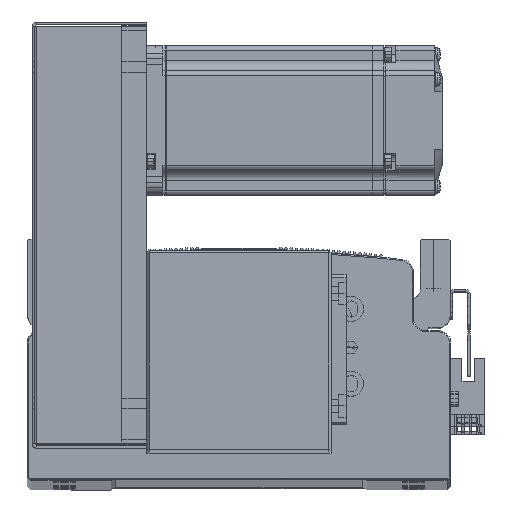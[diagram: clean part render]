
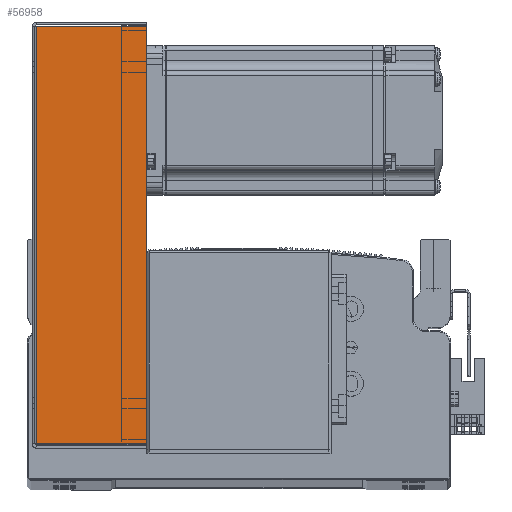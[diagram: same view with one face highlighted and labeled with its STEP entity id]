
A CAD part, top view. The second image highlights one B-rep face of the part: STEP entity #56958.
In plain terms, the highlighted planar face has unit normal (0, 0, 1) as drawn and (0, 0, -1) by its records, which use the part's own axes.
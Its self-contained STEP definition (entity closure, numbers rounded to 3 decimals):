
#10767 = FACE_OUTER_BOUND ( 'NONE', #35043, .T. ) ;
#12455 = PLANE ( 'NONE',  #89563 ) ;
#12472 = CARTESIAN_POINT ( 'NONE',  ( 0., 0., -40.5 ) ) ;
#12494 = DIRECTION ( 'NONE',  ( 0., 0., 1. ) ) ;
#12506 = DIRECTION ( 'NONE',  ( 0., -1., 0. ) ) ;
#18440 = LINE ( 'NONE', #72772, #18442 ) ;
#18442 = VECTOR ( 'NONE', #72799, 1000. ) ;
#18461 = LINE ( 'NONE', #72762, #18480 ) ;
#18480 = VECTOR ( 'NONE', #72797, 1000. ) ;
#18485 = LINE ( 'NONE', #72828, #18549 ) ;
#18549 = VECTOR ( 'NONE', #72812, 1000. ) ;
#18575 = LINE ( 'NONE', #72984, #18616 ) ;
#18616 = VECTOR ( 'NONE', #72957, 1000. ) ;
#28705 = ORIENTED_EDGE ( 'NONE', *, *, #35417, .T. ) ;
#28724 = ORIENTED_EDGE ( 'NONE', *, *, #35378, .T. ) ;
#28728 = ORIENTED_EDGE ( 'NONE', *, *, #35384, .F. ) ;
#28803 = ORIENTED_EDGE ( 'NONE', *, *, #35536, .F. ) ;
#35043 = EDGE_LOOP ( 'NONE', ( #28803, #28705, #28724, #28728 ) ) ;
#35378 = EDGE_CURVE ( 'NONE', #74404, #74378, #18440, .T. ) ;
#35384 = EDGE_CURVE ( 'NONE', #74440, #74378, #18461, .T. ) ;
#35417 = EDGE_CURVE ( 'NONE', #74415, #74404, #18485, .T. ) ;
#35536 = EDGE_CURVE ( 'NONE', #74415, #74440, #18575, .T. ) ;
#44804 = CARTESIAN_POINT ( 'NONE',  ( -83.793, 45., -40.5 ) ) ;
#44808 = CARTESIAN_POINT ( 'NONE',  ( -83.793, 0.737, -40.5 ) ) ;
#44847 = CARTESIAN_POINT ( 'NONE',  ( 83.793, 45., -40.5 ) ) ;
#44884 = CARTESIAN_POINT ( 'NONE',  ( 83.793, 0.737, -40.5 ) ) ;
#56958 = ADVANCED_FACE ( 'NONE', ( #10767 ), #12455, .F. ) ;
#72762 = CARTESIAN_POINT ( 'NONE',  ( 83.793, 0., -40.5 ) ) ;
#72772 = CARTESIAN_POINT ( 'NONE',  ( 84.5, 45., -40.5 ) ) ;
#72797 = DIRECTION ( 'NONE',  ( 0., 1., 0. ) ) ;
#72799 = DIRECTION ( 'NONE',  ( 1., 0., 0. ) ) ;
#72812 = DIRECTION ( 'NONE',  ( 0., 1., 0. ) ) ;
#72828 = CARTESIAN_POINT ( 'NONE',  ( -83.793, 0., -40.5 ) ) ;
#72957 = DIRECTION ( 'NONE',  ( 1., 0., 0. ) ) ;
#72984 = CARTESIAN_POINT ( 'NONE',  ( 0., 0.737, -40.5 ) ) ;
#74378 = VERTEX_POINT ( 'NONE', #44847 ) ;
#74404 = VERTEX_POINT ( 'NONE', #44804 ) ;
#74415 = VERTEX_POINT ( 'NONE', #44808 ) ;
#74440 = VERTEX_POINT ( 'NONE', #44884 ) ;
#89563 = AXIS2_PLACEMENT_3D ( 'NONE', #12472, #12494, #12506 ) ;
